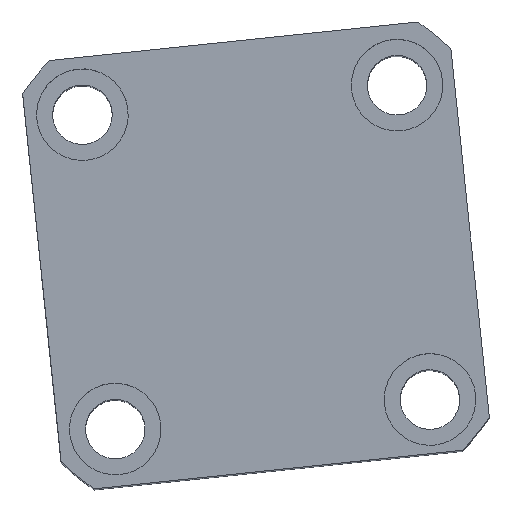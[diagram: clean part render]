
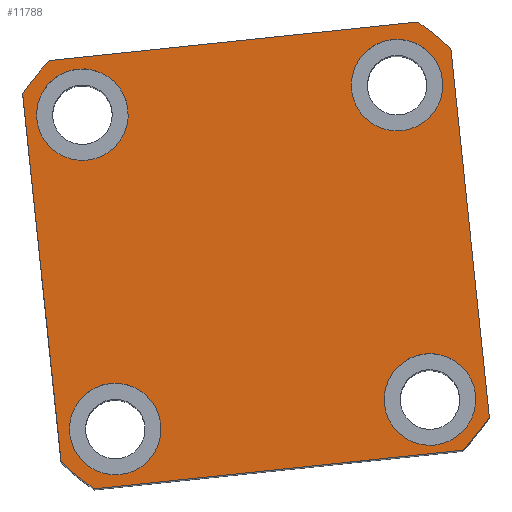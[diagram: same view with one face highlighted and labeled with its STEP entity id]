
A CAD part, top view. The second image highlights one B-rep face of the part: STEP entity #11788.
In plain terms, the highlighted planar face has unit normal (0, 0, 1) as drawn and (0, 0, -1) by its records, which use the part's own axes.
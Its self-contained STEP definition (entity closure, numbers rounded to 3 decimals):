
#47 = ORIENTED_EDGE ( 'NONE', *, *, #12355, .F. ) ;
#126 = DIRECTION ( 'NONE',  ( 0., 0., -1. ) ) ;
#280 = DIRECTION ( 'NONE',  ( 0., 0., -1. ) ) ;
#373 = VERTEX_POINT ( 'NONE', #19595 ) ;
#833 = CARTESIAN_POINT ( 'NONE',  ( 45.23, -34.5, 0. ) ) ;
#1177 = DIRECTION ( 'NONE',  ( 0., 1., 0. ) ) ;
#1449 = DIRECTION ( 'NONE',  ( -1., 0., 0. ) ) ;
#1454 = CIRCLE ( 'NONE', #2982, 10. ) ;
#1541 = DIRECTION ( 'NONE',  ( 0., 0., 1. ) ) ;
#1609 = DIRECTION ( 'NONE',  ( 0., 0., 1. ) ) ;
#2019 = ORIENTED_EDGE ( 'NONE', *, *, #19004, .F. ) ;
#2034 = CARTESIAN_POINT ( 'NONE',  ( -43.77, -34.5, 0. ) ) ;
#2227 = EDGE_CURVE ( 'NONE', #4249, #3492, #2944, .T. ) ;
#2277 = CARTESIAN_POINT ( 'NONE',  ( 0., 0., 0. ) ) ;
#2336 = VERTEX_POINT ( 'NONE', #15400 ) ;
#2527 = EDGE_CURVE ( 'NONE', #19171, #19935, #6995, .T. ) ;
#2578 = AXIS2_PLACEMENT_3D ( 'NONE', #5015, #6854, #1449 ) ;
#2944 = CIRCLE ( 'NONE', #2578, 10. ) ;
#2982 = AXIS2_PLACEMENT_3D ( 'NONE', #17934, #7626, #19723 ) ;
#3117 = FACE_BOUND ( 'NONE', #7312, .T. ) ;
#3184 = CIRCLE ( 'NONE', #19121, 10. ) ;
#3382 = PLANE ( 'NONE',  #18572 ) ;
#3492 = VERTEX_POINT ( 'NONE', #19986 ) ;
#3699 = EDGE_CURVE ( 'NONE', #6275, #17698, #9674, .T. ) ;
#4021 = DIRECTION ( 'NONE',  ( 1., 0., 0. ) ) ;
#4160 = CARTESIAN_POINT ( 'NONE',  ( -47., 47., 0. ) ) ;
#4249 = VERTEX_POINT ( 'NONE', #7142 ) ;
#4526 = ORIENTED_EDGE ( 'NONE', *, *, #21093, .F. ) ;
#4718 = CIRCLE ( 'NONE', #16534, 62. ) ;
#4857 = EDGE_LOOP ( 'NONE', ( #8125, #12645 ) ) ;
#4965 = EDGE_CURVE ( 'NONE', #18534, #6325, #3184, .T. ) ;
#4998 = EDGE_CURVE ( 'NONE', #16372, #7058, #11268, .T. ) ;
#5015 = CARTESIAN_POINT ( 'NONE',  ( -34.5, 34.5, 0. ) ) ;
#5122 = DIRECTION ( 'NONE',  ( 1., 0., 0. ) ) ;
#5173 = CARTESIAN_POINT ( 'NONE',  ( 25.23, -34.5, 0. ) ) ;
#5205 = VECTOR ( 'NONE', #1177, 1000. ) ;
#5217 = ORIENTED_EDGE ( 'NONE', *, *, #14519, .F. ) ;
#5346 = ORIENTED_EDGE ( 'NONE', *, *, #13197, .F. ) ;
#5607 = VECTOR ( 'NONE', #5640, 1000. ) ;
#5640 = DIRECTION ( 'NONE',  ( -1., 0., 0. ) ) ;
#5660 = CARTESIAN_POINT ( 'NONE',  ( -47., -40.435, 0. ) ) ;
#5704 = CARTESIAN_POINT ( 'NONE',  ( -34.5, 34.5, 0. ) ) ;
#5902 = DIRECTION ( 'NONE',  ( 0., -1., 0. ) ) ;
#6275 = VERTEX_POINT ( 'NONE', #19844 ) ;
#6325 = VERTEX_POINT ( 'NONE', #5173 ) ;
#6393 = ORIENTED_EDGE ( 'NONE', *, *, #14610, .F. ) ;
#6584 = EDGE_CURVE ( 'NONE', #13799, #6275, #18260, .T. ) ;
#6645 = CARTESIAN_POINT ( 'NONE',  ( 0., 0., 0. ) ) ;
#6854 = DIRECTION ( 'NONE',  ( 0., 0., -1. ) ) ;
#6868 = CIRCLE ( 'NONE', #21120, 10. ) ;
#6995 = CIRCLE ( 'NONE', #10661, 10. ) ;
#7058 = VERTEX_POINT ( 'NONE', #18567 ) ;
#7142 = CARTESIAN_POINT ( 'NONE',  ( -24.5, 34.5, 0. ) ) ;
#7182 = FACE_BOUND ( 'NONE', #16895, .T. ) ;
#7209 = DIRECTION ( 'NONE',  ( 1., 0., 0. ) ) ;
#7312 = EDGE_LOOP ( 'NONE', ( #2019, #19323 ) ) ;
#7421 = DIRECTION ( 'NONE',  ( -1., 0., 0. ) ) ;
#7626 = DIRECTION ( 'NONE',  ( 0., 0., -1. ) ) ;
#7646 = AXIS2_PLACEMENT_3D ( 'NONE', #6645, #18707, #8385 ) ;
#7860 = CARTESIAN_POINT ( 'NONE',  ( 47., 40.435, 0. ) ) ;
#8125 = ORIENTED_EDGE ( 'NONE', *, *, #2527, .F. ) ;
#8169 = CIRCLE ( 'NONE', #12227, 10. ) ;
#8385 = DIRECTION ( 'NONE',  ( 1., 0., 0. ) ) ;
#8570 = DIRECTION ( 'NONE',  ( 1., 0., 0. ) ) ;
#8931 = CARTESIAN_POINT ( 'NONE',  ( -33.77, -34.5, 0. ) ) ;
#9016 = CARTESIAN_POINT ( 'NONE',  ( -33.77, -34.5, 0. ) ) ;
#9346 = ORIENTED_EDGE ( 'NONE', *, *, #2227, .F. ) ;
#9674 = CIRCLE ( 'NONE', #10965, 62. ) ;
#9717 = EDGE_LOOP ( 'NONE', ( #5346, #4526, #47, #5217, #18930, #10147, #13906, #19369 ) ) ;
#9865 = VERTEX_POINT ( 'NONE', #5660 ) ;
#9952 = CARTESIAN_POINT ( 'NONE',  ( 40.435, -47., 0. ) ) ;
#10147 = ORIENTED_EDGE ( 'NONE', *, *, #16543, .F. ) ;
#10244 = CARTESIAN_POINT ( 'NONE',  ( 0., 0., 0. ) ) ;
#10323 = LINE ( 'NONE', #21926, #5205 ) ;
#10493 = CARTESIAN_POINT ( 'NONE',  ( 35.23, -34.5, 0. ) ) ;
#10634 = CARTESIAN_POINT ( 'NONE',  ( 35.23, -34.5, 0. ) ) ;
#10637 = DIRECTION ( 'NONE',  ( -1., 0., 0. ) ) ;
#10661 = AXIS2_PLACEMENT_3D ( 'NONE', #14167, #14422, #13743 ) ;
#10735 = DIRECTION ( 'NONE',  ( -1., 0., 0. ) ) ;
#10965 = AXIS2_PLACEMENT_3D ( 'NONE', #13512, #1541, #8570 ) ;
#11213 = FACE_OUTER_BOUND ( 'NONE', #9717, .T. ) ;
#11268 = CIRCLE ( 'NONE', #17935, 10. ) ;
#11788 = ADVANCED_FACE ( 'NONE', ( #3117, #20418, #7182, #15767, #11213 ), #3382, .F. ) ;
#11933 = CARTESIAN_POINT ( 'NONE',  ( 0., 0., 0. ) ) ;
#12197 = ORIENTED_EDGE ( 'NONE', *, *, #4998, .F. ) ;
#12214 = DIRECTION ( 'NONE',  ( -1., 0., 0. ) ) ;
#12227 = AXIS2_PLACEMENT_3D ( 'NONE', #5704, #17733, #7421 ) ;
#12239 = AXIS2_PLACEMENT_3D ( 'NONE', #10634, #280, #12368 ) ;
#12355 = EDGE_CURVE ( 'NONE', #18796, #2336, #13074, .T. ) ;
#12368 = DIRECTION ( 'NONE',  ( -1., 0., 0. ) ) ;
#12645 = ORIENTED_EDGE ( 'NONE', *, *, #13760, .F. ) ;
#12886 = CARTESIAN_POINT ( 'NONE',  ( 40.435, 47., 0. ) ) ;
#13074 = CIRCLE ( 'NONE', #13485, 62. ) ;
#13197 = EDGE_CURVE ( 'NONE', #15532, #13799, #4718, .T. ) ;
#13485 = AXIS2_PLACEMENT_3D ( 'NONE', #2277, #14301, #4021 ) ;
#13512 = CARTESIAN_POINT ( 'NONE',  ( 0., 0., 0. ) ) ;
#13647 = DIRECTION ( 'NONE',  ( 1., 0., 0. ) ) ;
#13743 = DIRECTION ( 'NONE',  ( -1., 0., 0. ) ) ;
#13760 = EDGE_CURVE ( 'NONE', #19935, #19171, #1454, .T. ) ;
#13799 = VERTEX_POINT ( 'NONE', #12886 ) ;
#13906 = ORIENTED_EDGE ( 'NONE', *, *, #3699, .F. ) ;
#14009 = CARTESIAN_POINT ( 'NONE',  ( 44.5, 34.5, 0. ) ) ;
#14167 = CARTESIAN_POINT ( 'NONE',  ( 34.5, 34.5, 0. ) ) ;
#14172 = CARTESIAN_POINT ( 'NONE',  ( -47., 47., 0. ) ) ;
#14301 = DIRECTION ( 'NONE',  ( 0., 0., 1. ) ) ;
#14422 = DIRECTION ( 'NONE',  ( 0., 0., -1. ) ) ;
#14519 = EDGE_CURVE ( 'NONE', #373, #18796, #19578, .T. ) ;
#14610 = EDGE_CURVE ( 'NONE', #7058, #16372, #6868, .T. ) ;
#14666 = VECTOR ( 'NONE', #5902, 1000. ) ;
#14911 = CIRCLE ( 'NONE', #12239, 10. ) ;
#14927 = VECTOR ( 'NONE', #7209, 1000. ) ;
#15400 = CARTESIAN_POINT ( 'NONE',  ( 47., -40.435, 0. ) ) ;
#15408 = DIRECTION ( 'NONE',  ( 0., 0., 1. ) ) ;
#15532 = VERTEX_POINT ( 'NONE', #7860 ) ;
#15767 = FACE_BOUND ( 'NONE', #4857, .T. ) ;
#16372 = VERTEX_POINT ( 'NONE', #2034 ) ;
#16534 = AXIS2_PLACEMENT_3D ( 'NONE', #11933, #1609, #13647 ) ;
#16543 = EDGE_CURVE ( 'NONE', #17698, #9865, #19317, .T. ) ;
#16895 = EDGE_LOOP ( 'NONE', ( #17421, #9346 ) ) ;
#17421 = ORIENTED_EDGE ( 'NONE', *, *, #21384, .F. ) ;
#17698 = VERTEX_POINT ( 'NONE', #21236 ) ;
#17733 = DIRECTION ( 'NONE',  ( 0., 0., -1. ) ) ;
#17934 = CARTESIAN_POINT ( 'NONE',  ( 34.5, 34.5, 0. ) ) ;
#17935 = AXIS2_PLACEMENT_3D ( 'NONE', #8931, #21047, #10637 ) ;
#18260 = LINE ( 'NONE', #14172, #5607 ) ;
#18534 = VERTEX_POINT ( 'NONE', #833 ) ;
#18567 = CARTESIAN_POINT ( 'NONE',  ( -23.77, -34.5, 0. ) ) ;
#18572 = AXIS2_PLACEMENT_3D ( 'NONE', #10244, #15408, #5122 ) ;
#18707 = DIRECTION ( 'NONE',  ( 0., 0., 1. ) ) ;
#18796 = VERTEX_POINT ( 'NONE', #9952 ) ;
#18843 = EDGE_CURVE ( 'NONE', #9865, #373, #20100, .T. ) ;
#18930 = ORIENTED_EDGE ( 'NONE', *, *, #18843, .F. ) ;
#19004 = EDGE_CURVE ( 'NONE', #6325, #18534, #14911, .T. ) ;
#19121 = AXIS2_PLACEMENT_3D ( 'NONE', #10493, #126, #12214 ) ;
#19171 = VERTEX_POINT ( 'NONE', #21196 ) ;
#19282 = CARTESIAN_POINT ( 'NONE',  ( -47., -47., 0. ) ) ;
#19317 = LINE ( 'NONE', #4160, #14666 ) ;
#19323 = ORIENTED_EDGE ( 'NONE', *, *, #4965, .F. ) ;
#19369 = ORIENTED_EDGE ( 'NONE', *, *, #6584, .F. ) ;
#19578 = LINE ( 'NONE', #19282, #14927 ) ;
#19595 = CARTESIAN_POINT ( 'NONE',  ( -40.435, -47., 0. ) ) ;
#19723 = DIRECTION ( 'NONE',  ( -1., 0., 0. ) ) ;
#19844 = CARTESIAN_POINT ( 'NONE',  ( -40.435, 47., 0. ) ) ;
#19935 = VERTEX_POINT ( 'NONE', #14009 ) ;
#19986 = CARTESIAN_POINT ( 'NONE',  ( -44.5, 34.5, 0. ) ) ;
#20100 = CIRCLE ( 'NONE', #7646, 62. ) ;
#20267 = EDGE_LOOP ( 'NONE', ( #12197, #6393 ) ) ;
#20418 = FACE_BOUND ( 'NONE', #20267, .T. ) ;
#21047 = DIRECTION ( 'NONE',  ( 0., 0., -1. ) ) ;
#21093 = EDGE_CURVE ( 'NONE', #2336, #15532, #10323, .T. ) ;
#21120 = AXIS2_PLACEMENT_3D ( 'NONE', #9016, #21143, #10735 ) ;
#21143 = DIRECTION ( 'NONE',  ( 0., 0., -1. ) ) ;
#21196 = CARTESIAN_POINT ( 'NONE',  ( 24.5, 34.5, 0. ) ) ;
#21236 = CARTESIAN_POINT ( 'NONE',  ( -47., 40.435, 0. ) ) ;
#21384 = EDGE_CURVE ( 'NONE', #3492, #4249, #8169, .T. ) ;
#21926 = CARTESIAN_POINT ( 'NONE',  ( 47., 47., 0. ) ) ;
